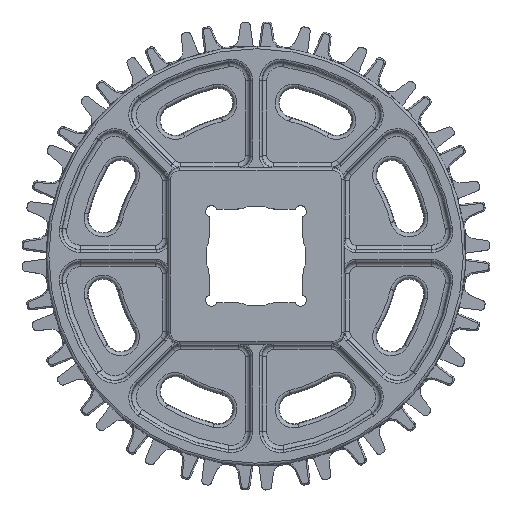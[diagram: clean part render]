
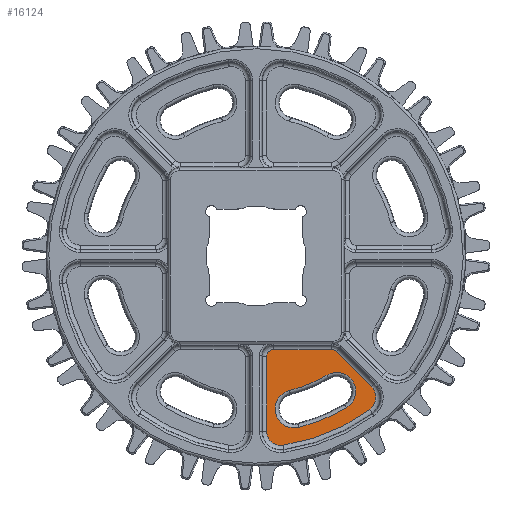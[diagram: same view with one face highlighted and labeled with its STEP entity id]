
A CAD part, top view. The second image highlights one B-rep face of the part: STEP entity #16124.
In plain terms, the highlighted planar face has unit normal (0, 0, 1).
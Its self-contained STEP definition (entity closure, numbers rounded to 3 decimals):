
#16124=ADVANCED_FACE('',(#19068,#19069),#17732,.T.);
#17732=PLANE('',#37533);
#17972=CIRCLE('',#37524,76.118);
#17973=CIRCLE('',#37525,8.16);
#17974=CIRCLE('',#37526,59.798);
#17975=CIRCLE('',#37527,8.16);
#17976=CIRCLE('',#37530,6.052);
#17977=CIRCLE('',#37531,82.378);
#17978=CIRCLE('',#37532,6.559);
#19068=FACE_BOUND('',#19148,.T.);
#19069=FACE_BOUND('',#19149,.T.);
#19148=EDGE_LOOP('',(#21106,#21107,#21108,#21109));
#19149=EDGE_LOOP('',(#21110,#21111,#21112,#21113,#21114,#21115,#21116,#21117));
#20798=ELLIPSE('',#37528,2.945,2.94);
#20799=ELLIPSE('',#37529,2.948,2.94);
#21106=ORIENTED_EDGE('',*,*,#31513,.T.);
#21107=ORIENTED_EDGE('',*,*,#31514,.T.);
#21108=ORIENTED_EDGE('',*,*,#31515,.T.);
#21109=ORIENTED_EDGE('',*,*,#31516,.T.);
#21110=ORIENTED_EDGE('',*,*,#31517,.T.);
#21111=ORIENTED_EDGE('',*,*,#31518,.T.);
#21112=ORIENTED_EDGE('',*,*,#31519,.T.);
#21113=ORIENTED_EDGE('',*,*,#31520,.T.);
#21114=ORIENTED_EDGE('',*,*,#31521,.T.);
#21115=ORIENTED_EDGE('',*,*,#31522,.T.);
#21116=ORIENTED_EDGE('',*,*,#31523,.T.);
#21117=ORIENTED_EDGE('',*,*,#31524,.T.);
#29088=VERTEX_POINT('',#46350);
#29089=VERTEX_POINT('',#46351);
#29090=VERTEX_POINT('',#46353);
#29091=VERTEX_POINT('',#46355);
#29092=VERTEX_POINT('',#46358);
#29093=VERTEX_POINT('',#46359);
#29094=VERTEX_POINT('',#46361);
#29095=VERTEX_POINT('',#46363);
#29096=VERTEX_POINT('',#46365);
#29097=VERTEX_POINT('',#46367);
#29098=VERTEX_POINT('',#46369);
#29099=VERTEX_POINT('',#46371);
#31513=EDGE_CURVE('',#29088,#29089,#17972,.T.);
#31514=EDGE_CURVE('',#29089,#29090,#17973,.T.);
#31515=EDGE_CURVE('',#29090,#29091,#17974,.T.);
#31516=EDGE_CURVE('',#29091,#29088,#17975,.T.);
#31517=EDGE_CURVE('',#29092,#29093,#35481,.T.);
#31518=EDGE_CURVE('',#29093,#29094,#20798,.T.);
#31519=EDGE_CURVE('',#29094,#29095,#35482,.T.);
#31520=EDGE_CURVE('',#29095,#29096,#20799,.T.);
#31521=EDGE_CURVE('',#29096,#29097,#35483,.T.);
#31522=EDGE_CURVE('',#29097,#29098,#17976,.T.);
#31523=EDGE_CURVE('',#29098,#29099,#17977,.T.);
#31524=EDGE_CURVE('',#29099,#29092,#17978,.T.);
#35481=LINE('',#46357,#36475);
#35482=LINE('',#46362,#36476);
#35483=LINE('',#46366,#36477);
#36475=VECTOR('',#40183,1.);
#36476=VECTOR('',#40186,1.);
#36477=VECTOR('',#40189,1.);
#37524=AXIS2_PLACEMENT_3D('',#46349,#40175,#40176);
#37525=AXIS2_PLACEMENT_3D('',#46352,#40177,#40178);
#37526=AXIS2_PLACEMENT_3D('',#46354,#40179,#40180);
#37527=AXIS2_PLACEMENT_3D('',#46356,#40181,#40182);
#37528=AXIS2_PLACEMENT_3D('',#46360,#40184,#40185);
#37529=AXIS2_PLACEMENT_3D('',#46364,#40187,#40188);
#37530=AXIS2_PLACEMENT_3D('',#46368,#40190,#40191);
#37531=AXIS2_PLACEMENT_3D('',#46370,#40192,#40193);
#37532=AXIS2_PLACEMENT_3D('',#46372,#40194,#40195);
#37533=AXIS2_PLACEMENT_3D('',#46373,#40196,#40197);
#40175=DIRECTION('',(0.,0.,-1.));
#40176=DIRECTION('',(1.,0.,0.));
#40177=DIRECTION('',(0.,0.,-1.));
#40178=DIRECTION('',(1.,0.,0.));
#40179=DIRECTION('',(0.,0.,1.));
#40180=DIRECTION('',(1.,0.,0.));
#40181=DIRECTION('',(0.,0.,-1.));
#40182=DIRECTION('',(1.,0.,0.));
#40183=DIRECTION('',(-0.707,0.707,0.));
#40184=DIRECTION('',(0.,0.,1.));
#40185=DIRECTION('',(-0.383,-0.924,0.));
#40186=DIRECTION('',(-1.,0.,0.));
#40187=DIRECTION('',(0.,0.,1.));
#40188=DIRECTION('',(0.707,-0.707,0.));
#40189=DIRECTION('',(0.,-1.,0.));
#40190=DIRECTION('',(0.,0.,1.));
#40191=DIRECTION('',(1.,0.,0.));
#40192=DIRECTION('',(0.,0.,1.));
#40193=DIRECTION('',(1.,0.,0.));
#40194=DIRECTION('',(0.,0.,1.));
#40195=DIRECTION('',(1.,0.,0.));
#40196=DIRECTION('',(0.,0.,1.));
#40197=DIRECTION('',(1.,0.,0.));
#46349=CARTESIAN_POINT('',(0.,400.,3.043));
#46350=CARTESIAN_POINT('',(38.988,334.625,3.043));
#46351=CARTESIAN_POINT('',(18.409,326.141,3.043));
#46352=CARTESIAN_POINT('',(16.435,334.059,3.043));
#46353=CARTESIAN_POINT('',(14.462,341.977,3.043));
#46354=CARTESIAN_POINT('',(0.,400.,3.043));
#46355=CARTESIAN_POINT('',(30.629,348.642,3.043));
#46356=CARTESIAN_POINT('',(34.808,341.633,3.043));
#46357=CARTESIAN_POINT('',(12.685,380.74,3.043));
#46358=CARTESIAN_POINT('',(49.736,343.689,3.043));
#46359=CARTESIAN_POINT('',(34.632,358.793,3.043));
#46360=CARTESIAN_POINT('',(32.553,356.708,3.043));
#46361=CARTESIAN_POINT('',(32.556,359.652,3.043));
#46362=CARTESIAN_POINT('',(-115.919,359.652,3.043));
#46363=CARTESIAN_POINT('',(7.585,359.652,3.043));
#46364=CARTESIAN_POINT('',(7.593,356.708,3.043));
#46365=CARTESIAN_POINT('',(4.649,356.717,3.043));
#46366=CARTESIAN_POINT('',(4.649,252.136,3.043));
#46367=CARTESIAN_POINT('',(4.649,324.428,3.043));
#46368=CARTESIAN_POINT('',(10.701,324.428,3.043));
#46369=CARTESIAN_POINT('',(11.549,318.436,3.043));
#46370=CARTESIAN_POINT('',(0.,400.,3.043));
#46371=CARTESIAN_POINT('',(48.999,333.779,3.043));
#46372=CARTESIAN_POINT('',(45.098,339.052,3.043));
#46373=CARTESIAN_POINT('',(-115.919,252.136,3.043));
